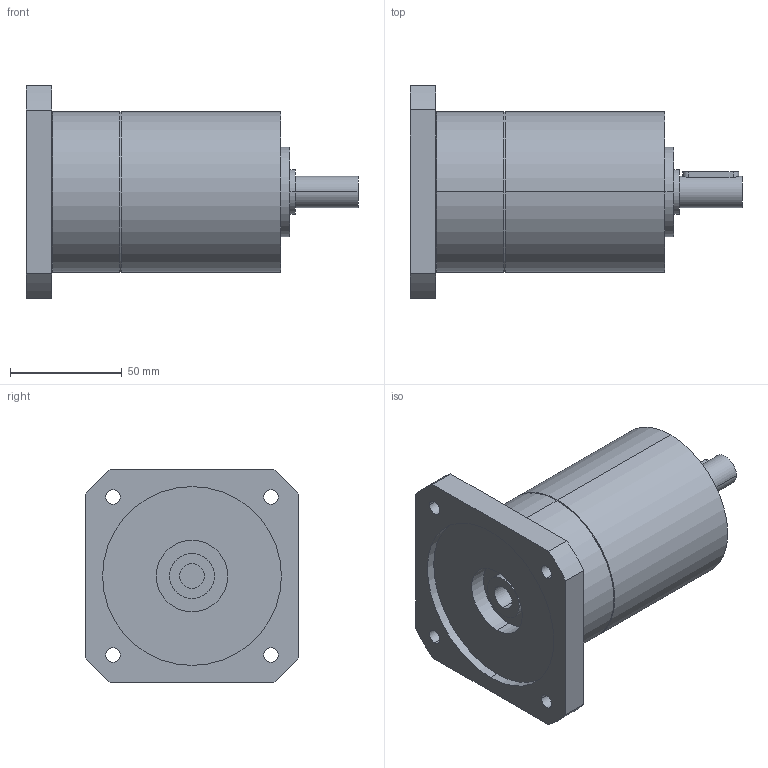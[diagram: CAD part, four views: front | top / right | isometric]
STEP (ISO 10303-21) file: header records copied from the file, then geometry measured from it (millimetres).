
FILE_DESCRIPTION(('CoCreate Modeling STEP Export'),'2;1');
FILE_NAME('GPT75_ig-9-12-16-20-25-28-35-40-50-70-100_14_B14T_11_P07.stp','2014-08-27T13:08:26',(''),(''),'CoCreate Modeling STEP processor for AP214 (Solid Model)','CoCreate Modeling 16.00C 25-Feb-2009 (C) Parametric Technology GmbH','');
FILE_SCHEMA(('AUTOMOTIVE_DESIGN { 1 0 10303 214 1 1 1 1 }'));
Length unit declared in the file: millimetre
Products named in the file (2): GPT75_ig-9-12-16-20-25-28-35-40-50-70-100_14_B14T_11_P07
Assembly tree (1 placements, depth 2):
  GPT75_ig-9-12-16-20-25-28-35-40-50-70-100_14_B14T_11_P07
    GPT75_ig-9-12-16-20-25-28-35-40-50-70-100_14_B14T_11_P07
Bounding box: 148.5 x 95 x 95 mm (x, y, z)
Volume: 498339.7 mm3; surface area: 51798.7 mm2
Topology: 1 solids, 1 shells, 69 faces, 162 edges, 109 vertices
Faces by surface type: cylinder 42, plane 23, cone 4
Entity records: 2141 total; most frequent: CARTESIAN_POINT 660, ORIENTED_EDGE 324, DIRECTION 262, EDGE_CURVE 162, VERTEX_POINT 109, AXIS2_PLACEMENT_3D 99, EDGE_LOOP 91, FACE_OUTER_BOUND 69
